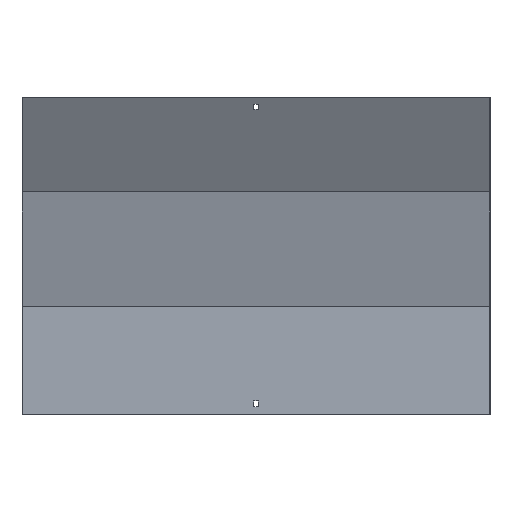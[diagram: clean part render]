
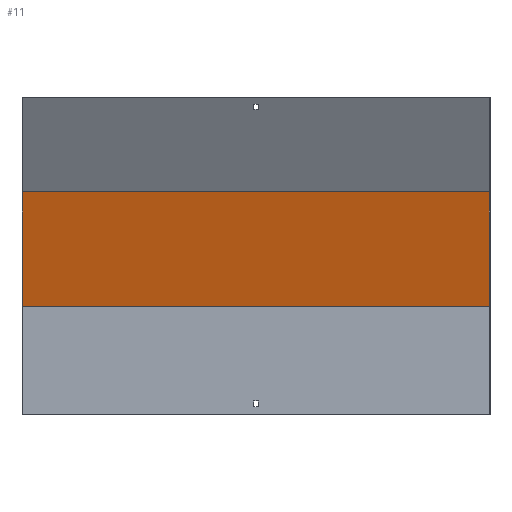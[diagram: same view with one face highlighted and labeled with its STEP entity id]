
A CAD part, front view. The second image highlights one B-rep face of the part: STEP entity #11.
In plain terms, the highlighted planar face has unit normal (0, -0.966, -0.259).
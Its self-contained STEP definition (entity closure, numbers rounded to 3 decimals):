
#11 = ADVANCED_FACE ( 'NONE', ( #690 ), #428, .T. ) ;
#44 = ORIENTED_EDGE ( 'NONE', *, *, #761, .F. ) ;
#47 = CARTESIAN_POINT ( 'NONE',  ( 350., 18.5, 162.436 ) ) ;
#59 = DIRECTION ( 'NONE',  ( -1., 0., 0. ) ) ;
#99 = EDGE_CURVE ( 'NONE', #835, #366, #692, .T. ) ;
#101 = VECTOR ( 'NONE', #552, 1000. ) ;
#154 = CARTESIAN_POINT ( 'NONE',  ( -350., 57.87, 15.506 ) ) ;
#156 = VECTOR ( 'NONE', #173, 1000. ) ;
#173 = DIRECTION ( 'NONE',  ( 0., -0.259, 0.966 ) ) ;
#175 = VERTEX_POINT ( 'NONE', #783 ) ;
#256 = ORIENTED_EDGE ( 'NONE', *, *, #572, .T. ) ;
#269 = EDGE_LOOP ( 'NONE', ( #774, #44, #388, #256 ) ) ;
#277 = CARTESIAN_POINT ( 'NONE',  ( 351.5, -28.054, 336.178 ) ) ;
#282 = DIRECTION ( 'NONE',  ( 0., -0.259, 0.966 ) ) ;
#285 = DIRECTION ( 'NONE',  ( 0., 0.259, -0.966 ) ) ;
#292 = CARTESIAN_POINT ( 'NONE',  ( 351.5, 17.87, 164.788 ) ) ;
#366 = VERTEX_POINT ( 'NONE', #472 ) ;
#388 = ORIENTED_EDGE ( 'NONE', *, *, #99, .T. ) ;
#428 = PLANE ( 'NONE',  #786 ) ;
#472 = CARTESIAN_POINT ( 'NONE',  ( 350., -28.054, 336.178 ) ) ;
#473 = EDGE_CURVE ( 'NONE', #608, #175, #675, .T. ) ;
#479 = VECTOR ( 'NONE', #59, 1000. ) ;
#552 = DIRECTION ( 'NONE',  ( -1., 0., 0. ) ) ;
#567 = VECTOR ( 'NONE', #282, 1000. ) ;
#570 = DIRECTION ( 'NONE',  ( 0., -0.966, -0.259 ) ) ;
#572 = EDGE_CURVE ( 'NONE', #366, #175, #736, .T. ) ;
#608 = VERTEX_POINT ( 'NONE', #794 ) ;
#636 = CARTESIAN_POINT ( 'NONE',  ( 350., 57.87, 15.506 ) ) ;
#675 = LINE ( 'NONE', #154, #567 ) ;
#690 = FACE_OUTER_BOUND ( 'NONE', #269, .T. ) ;
#692 = LINE ( 'NONE', #636, #156 ) ;
#736 = LINE ( 'NONE', #277, #101 ) ;
#761 = EDGE_CURVE ( 'NONE', #835, #608, #768, .T. ) ;
#768 = LINE ( 'NONE', #773, #479 ) ;
#773 = CARTESIAN_POINT ( 'NONE',  ( 351.5, 18.5, 162.436 ) ) ;
#774 = ORIENTED_EDGE ( 'NONE', *, *, #473, .F. ) ;
#783 = CARTESIAN_POINT ( 'NONE',  ( -350., -28.054, 336.178 ) ) ;
#786 = AXIS2_PLACEMENT_3D ( 'NONE', #292, #570, #285 ) ;
#794 = CARTESIAN_POINT ( 'NONE',  ( -350., 18.5, 162.436 ) ) ;
#835 = VERTEX_POINT ( 'NONE', #47 ) ;
